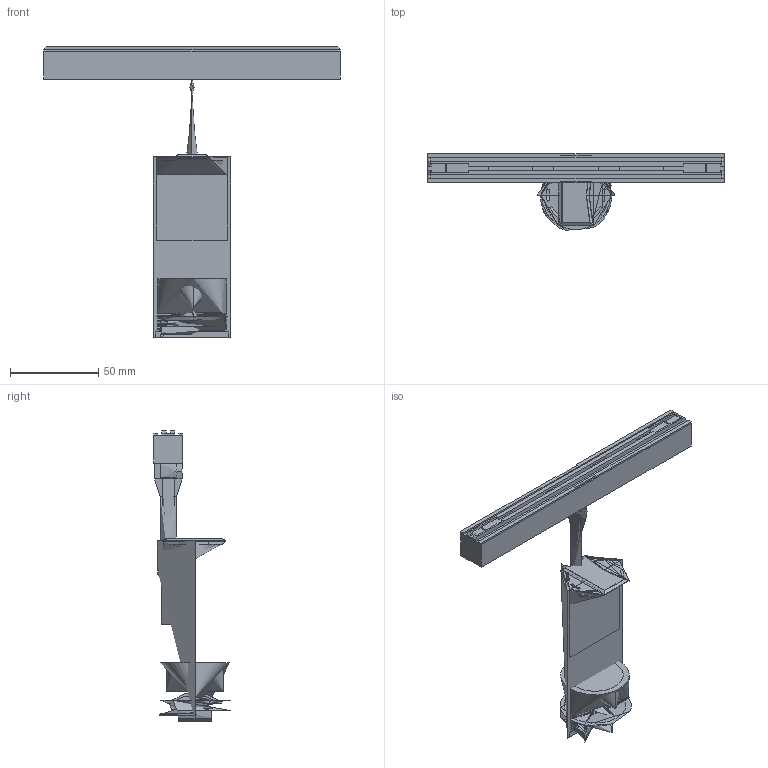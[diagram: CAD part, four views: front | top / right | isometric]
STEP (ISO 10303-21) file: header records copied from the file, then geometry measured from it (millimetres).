
FILE_DESCRIPTION(/* description */ (''),/* implementation_level */ '2;1');
FILE_NAME(/* name */ 'B434__.008',/* time_stamp */ '2024-08-30T10:57:27+02:00',/* author */ (''),/* organization */ (''),/* preprocessor_version */ 'ST-DEVELOPER v16.5',/* originating_system */ '',/* authorisation */ '');
FILE_SCHEMA (('AUTOMOTIVE_DESIGN'));
Length unit declared in the file: millimetre
Products named in the file (1): Document
Bounding box: 168 x 43.12 x 164.35 mm (x, y, z)
Volume: 119835.7 mm3; surface area: 67560.7 mm2
Topology: 10 solids, 10 shells, 347 faces, 898 edges, 549 vertices
Faces by surface type: bspline 225, plane 122
Entity records: 16474 total; most frequent: CARTESIAN_POINT 11275, ORIENTED_EDGE 1766, EDGE_CURVE 883, VERTEX_POINT 547, B_SPLINE_CURVE_WITH_KNOTS 482, EDGE_LOOP 370, ADVANCED_FACE 347, FACE_OUTER_BOUND 347
